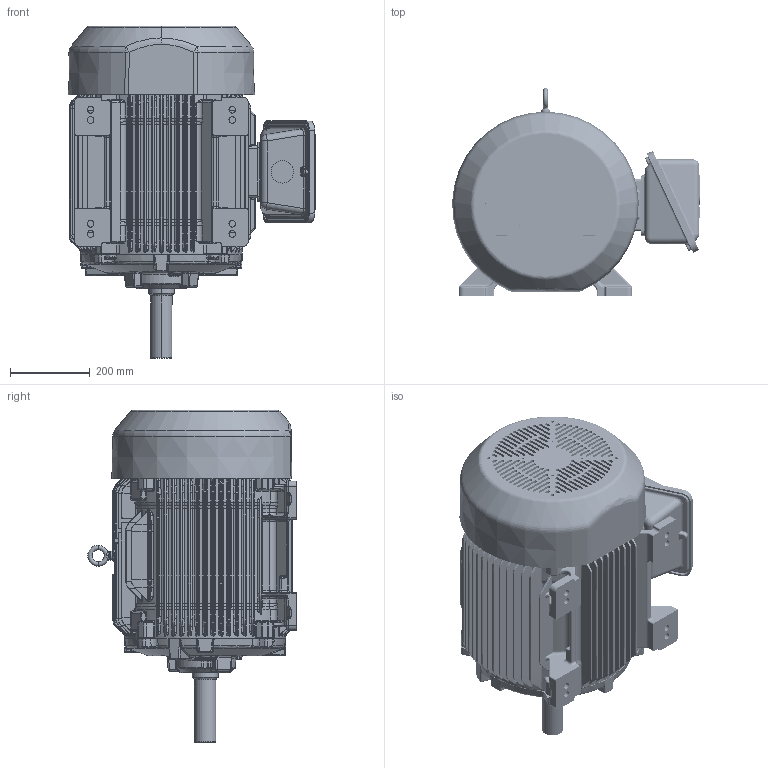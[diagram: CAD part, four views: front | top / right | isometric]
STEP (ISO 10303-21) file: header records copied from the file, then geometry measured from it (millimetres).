
FILE_DESCRIPTION((''),'2;1');
FILE_NAME('360_3D_ASM_ASM','2018-10-23T15:44:30',('emd2341'),('Nidec Motor Corporation'),'CREO PARAMETRIC BY PTC INC, 2018020','CREO PARAMETRIC BY PTC INC, 2018020','');
FILE_SCHEMA(('CONFIG_CONTROL_DESIGN'));
Length unit declared in the file: inch
Products named in the file (10): 360_FOOTED_FRAME; 360_DE_BRKT; 360_T; 0133166; 360_STL_FCVR; 320_CAST_GSK_OBB; 320_OBB_NEMA; 320_CAST_GSK_OBC; 320_CAST_OBC; 360_3D_ASM_ASM
Assembly tree (9 placements, depth 2):
  360_3D_ASM_ASM
    360_FOOTED_FRAME
    360_DE_BRKT
    360_T
    0133166
    360_STL_FCVR
    320_CAST_GSK_OBB
    320_OBB_NEMA
    320_CAST_GSK_OBC
    320_CAST_OBC
Bounding box: 621.21 x 523.37 x 832.87 mm (x, y, z)
Volume: 98529827.7 mm3; surface area: 3401091.7 mm2
Topology: 9 solids, 10 shells, 5374 faces, 12317 edges, 7077 vertices
Faces by surface type: bspline 2215, cylinder 1131, plane 1112, extrusion 412, torus 361, sphere 90, cone 53
Entity records: 246065 total; most frequent: CARTESIAN_POINT 140364, ORIENTED_EDGE 24630, DIRECTION 17595, EDGE_CURVE 12317, VERTEX_POINT 7077, AXIS2_PLACEMENT_3D 6546, EDGE_LOOP 5514, FACE_OUTER_BOUND 5374
